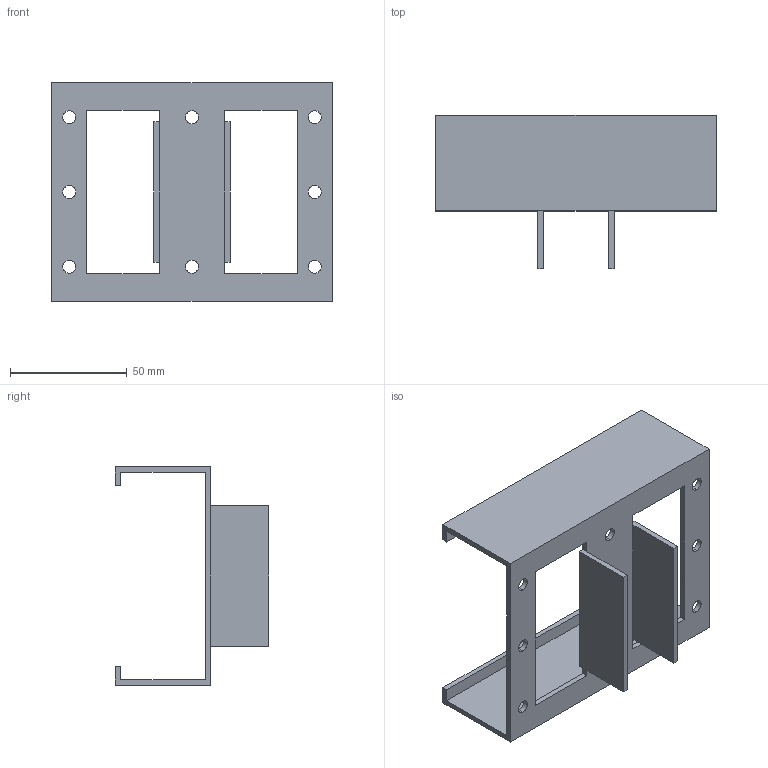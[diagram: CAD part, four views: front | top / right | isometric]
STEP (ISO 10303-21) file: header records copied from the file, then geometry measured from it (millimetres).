
FILE_DESCRIPTION (( 'STEP AP214' ), '1' );
FILE_NAME ('JB-504W.step', '2024-01-17T00:58:33', ( 'catia' ), ( 'HP Inc.' ), 'SwSTEP 2.0', 'SolidWorks 2021', '' );
FILE_SCHEMA (( 'AUTOMOTIVE_DESIGN' ));
Length unit declared in the file: millimetre
Products named in the file (1): JB-504W
Bounding box: 120 x 65.6 x 93.4 mm (x, y, z)
Volume: 47264.8 mm3; surface area: 43984.6 mm2
Topology: 1 solids, 1 shells, 50 faces, 140 edges, 92 vertices
Faces by surface type: plane 34, cylinder 16
Entity records: 1678 total; most frequent: CARTESIAN_POINT 283, ORIENTED_EDGE 280, DIRECTION 274, EDGE_CURVE 140, LINE 108, VECTOR 108, VERTEX_POINT 92, AXIS2_PLACEMENT_3D 83
